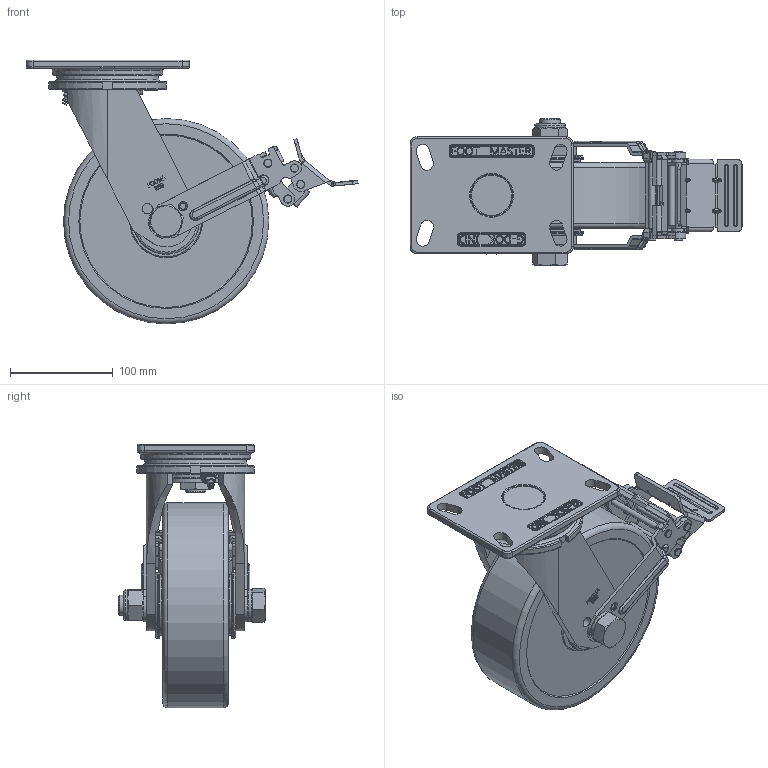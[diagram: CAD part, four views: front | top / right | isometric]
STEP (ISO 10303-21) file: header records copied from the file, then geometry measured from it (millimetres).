
FILE_DESCRIPTION(/* description */ (''),/* implementation_level */ '2;1');
FILE_NAME(/* name */ '\\192.168.10.38\지덕공유\1.기술연구소\손동원\GF-SERIES\3D\GF-200-BSF-MCD.stp',/* time_stamp */ '2023-07-25T14:03:54+09:00',/* author */ ('admin'),/* organization */ (''),/* preprocessor_version */ 'ST-DEVELOPER v18.1',/* originating_system */ 'Autodesk Inventor 2021',/* authorisation */ '');
FILE_SCHEMA (('AUTOMOTIVE_DESIGN { 1 0 10303 214 3 1 1 }'));
Length unit declared in the file: millimetre
Products named in the file (1): GF-200-BSF-MCD
Bounding box: 323.44 x 143 x 257 mm (x, y, z)
Volume: 2654270.2 mm3; surface area: 268632.1 mm2
Topology: 4 solids, 6 shells, 1846 faces, 4829 edges, 3068 vertices
Faces by surface type: plane 631, bspline 555, cylinder 452, torus 130, cone 62, sphere 16
Full cylindrical faces by diameter (mm): 4 x4, 6 x5, 6.2 x18, 7 x2, 8 x8, 10 x2, 20 x3, 30 x1, 33 x2, 59 x3, 64.519 x2, 200 x1
Entity records: 67709 total; most frequent: CARTESIAN_POINT 25048, ORIENTED_EDGE 9602, DIRECTION 7737, EDGE_CURVE 4801, VERTEX_POINT 3070, AXIS2_PLACEMENT_3D 2715, LINE 2307, VECTOR 2307
